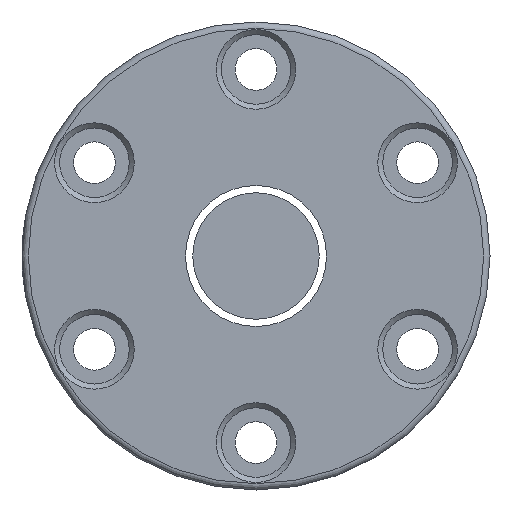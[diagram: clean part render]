
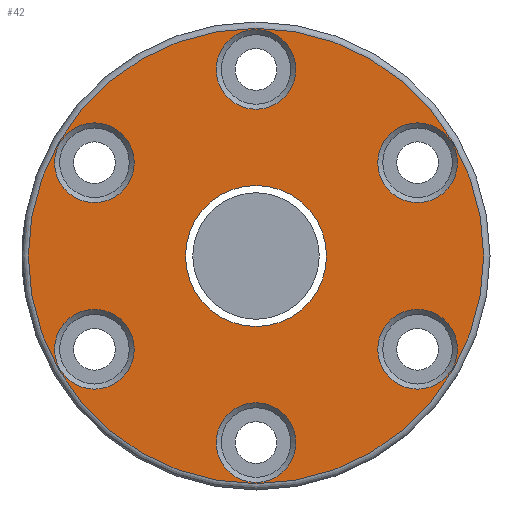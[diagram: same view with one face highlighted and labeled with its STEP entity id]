
A CAD part, left-side view. The second image highlights one B-rep face of the part: STEP entity #42.
In plain terms, the highlighted planar face has unit normal (-1, 0, 0).
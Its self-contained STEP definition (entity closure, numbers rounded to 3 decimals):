
#33 = ORIENTED_EDGE ( 'NONE', *, *, #1926, .T. ) ;
#42 = ADVANCED_FACE ( 'NONE', ( #2153, #1882, #570, #1466, #996, #1011, #118, #2797 ), #2361, .T. ) ;
#44 = DIRECTION ( 'NONE',  ( 1., 0., 0. ) ) ;
#62 = CARTESIAN_POINT ( 'NONE',  ( -57., -25.548, -14.75 ) ) ;
#76 = DIRECTION ( 'NONE',  ( 1., 0., 0. ) ) ;
#77 = EDGE_CURVE ( 'NONE', #1984, #1984, #1243, .T. ) ;
#97 = AXIS2_PLACEMENT_3D ( 'NONE', #555, #314, #1893 ) ;
#112 = DIRECTION ( 'NONE',  ( -1., 0., 0. ) ) ;
#118 = FACE_BOUND ( 'NONE', #2216, .T. ) ;
#192 = CARTESIAN_POINT ( 'NONE',  ( -57., 0., 36. ) ) ;
#288 = DIRECTION ( 'NONE',  ( 0., 0., 1. ) ) ;
#314 = DIRECTION ( 'NONE',  ( -1., 0., 0. ) ) ;
#343 = DIRECTION ( 'NONE',  ( 1., 0., 0. ) ) ;
#387 = ORIENTED_EDGE ( 'NONE', *, *, #742, .T. ) ;
#451 = AXIS2_PLACEMENT_3D ( 'NONE', #2359, #2825, #2633 ) ;
#555 = CARTESIAN_POINT ( 'NONE',  ( -57., 37., 0. ) ) ;
#570 = FACE_BOUND ( 'NONE', #1051, .T. ) ;
#588 = DIRECTION ( 'NONE',  ( 0., 0., -1. ) ) ;
#594 = DIRECTION ( 'NONE',  ( 0., 0., 1. ) ) ;
#623 = EDGE_CURVE ( 'NONE', #1475, #1475, #2053, .T. ) ;
#742 = EDGE_CURVE ( 'NONE', #1809, #1809, #1103, .T. ) ;
#777 = AXIS2_PLACEMENT_3D ( 'NONE', #1784, #871, #915 ) ;
#787 = CARTESIAN_POINT ( 'NONE',  ( -57., 0., -11.15 ) ) ;
#843 = ORIENTED_EDGE ( 'NONE', *, *, #1444, .T. ) ;
#871 = DIRECTION ( 'NONE',  ( 1., 0., 0. ) ) ;
#877 = AXIS2_PLACEMENT_3D ( 'NONE', #1288, #2190, #594 ) ;
#884 = DIRECTION ( 'NONE',  ( 1., 0., 0. ) ) ;
#915 = DIRECTION ( 'NONE',  ( 0., 0., 1. ) ) ;
#971 = AXIS2_PLACEMENT_3D ( 'NONE', #62, #76, #989 ) ;
#980 = EDGE_LOOP ( 'NONE', ( #843 ) ) ;
#989 = DIRECTION ( 'NONE',  ( 0., 0., 1. ) ) ;
#996 = FACE_BOUND ( 'NONE', #980, .T. ) ;
#1011 = FACE_BOUND ( 'NONE', #2744, .T. ) ;
#1051 = EDGE_LOOP ( 'NONE', ( #2145 ) ) ;
#1053 = AXIS2_PLACEMENT_3D ( 'NONE', #1196, #44, #288 ) ;
#1103 = CIRCLE ( 'NONE', #877, 6.3 ) ;
#1118 = ORIENTED_EDGE ( 'NONE', *, *, #2409, .T. ) ;
#1196 = CARTESIAN_POINT ( 'NONE',  ( -57., 0., 29.5 ) ) ;
#1199 = CIRCLE ( 'NONE', #1625, 36. ) ;
#1243 = CIRCLE ( 'NONE', #2910, 11.15 ) ;
#1246 = CARTESIAN_POINT ( 'NONE',  ( -57., 0., 0. ) ) ;
#1288 = CARTESIAN_POINT ( 'NONE',  ( -57., 0., -29.5 ) ) ;
#1377 = VERTEX_POINT ( 'NONE', #1553 ) ;
#1388 = EDGE_CURVE ( 'NONE', #1586, #1586, #1199, .T. ) ;
#1389 = AXIS2_PLACEMENT_3D ( 'NONE', #2035, #884, #2435 ) ;
#1394 = CIRCLE ( 'NONE', #451, 6.3 ) ;
#1407 = EDGE_LOOP ( 'NONE', ( #1837 ) ) ;
#1444 = EDGE_CURVE ( 'NONE', #1377, #1377, #2144, .T. ) ;
#1446 = EDGE_LOOP ( 'NONE', ( #33 ) ) ;
#1466 = FACE_BOUND ( 'NONE', #1588, .T. ) ;
#1475 = VERTEX_POINT ( 'NONE', #1718 ) ;
#1492 = ORIENTED_EDGE ( 'NONE', *, *, #623, .T. ) ;
#1553 = CARTESIAN_POINT ( 'NONE',  ( -57., 25.548, 21.05 ) ) ;
#1586 = VERTEX_POINT ( 'NONE', #192 ) ;
#1588 = EDGE_LOOP ( 'NONE', ( #1492 ) ) ;
#1625 = AXIS2_PLACEMENT_3D ( 'NONE', #1246, #112, #1921 ) ;
#1718 = CARTESIAN_POINT ( 'NONE',  ( -57., 0., 35.8 ) ) ;
#1781 = VERTEX_POINT ( 'NONE', #2243 ) ;
#1784 = CARTESIAN_POINT ( 'NONE',  ( -57., 25.548, -14.75 ) ) ;
#1796 = VERTEX_POINT ( 'NONE', #2897 ) ;
#1809 = VERTEX_POINT ( 'NONE', #2260 ) ;
#1837 = ORIENTED_EDGE ( 'NONE', *, *, #77, .T. ) ;
#1882 = FACE_BOUND ( 'NONE', #1446, .T. ) ;
#1893 = DIRECTION ( 'NONE',  ( 0., 0., 1. ) ) ;
#1921 = DIRECTION ( 'NONE',  ( 0., 0., 1. ) ) ;
#1925 = ORIENTED_EDGE ( 'NONE', *, *, #1388, .T. ) ;
#1926 = EDGE_CURVE ( 'NONE', #1796, #1796, #2251, .T. ) ;
#1984 = VERTEX_POINT ( 'NONE', #787 ) ;
#2035 = CARTESIAN_POINT ( 'NONE',  ( -57., 25.548, 14.75 ) ) ;
#2053 = CIRCLE ( 'NONE', #1053, 6.3 ) ;
#2080 = EDGE_CURVE ( 'NONE', #1781, #1781, #1394, .T. ) ;
#2144 = CIRCLE ( 'NONE', #1389, 6.3 ) ;
#2145 = ORIENTED_EDGE ( 'NONE', *, *, #2080, .T. ) ;
#2153 = FACE_OUTER_BOUND ( 'NONE', #2634, .T. ) ;
#2169 = CARTESIAN_POINT ( 'NONE',  ( -57., 0., 0. ) ) ;
#2190 = DIRECTION ( 'NONE',  ( 1., 0., 0. ) ) ;
#2216 = EDGE_LOOP ( 'NONE', ( #387 ) ) ;
#2228 = CARTESIAN_POINT ( 'NONE',  ( -57., 25.548, -8.45 ) ) ;
#2243 = CARTESIAN_POINT ( 'NONE',  ( -57., -25.548, 21.05 ) ) ;
#2250 = CIRCLE ( 'NONE', #777, 6.3 ) ;
#2251 = CIRCLE ( 'NONE', #971, 6.3 ) ;
#2260 = CARTESIAN_POINT ( 'NONE',  ( -57., 0., -23.2 ) ) ;
#2359 = CARTESIAN_POINT ( 'NONE',  ( -57., -25.548, 14.75 ) ) ;
#2361 = PLANE ( 'NONE',  #97 ) ;
#2409 = EDGE_CURVE ( 'NONE', #2710, #2710, #2250, .T. ) ;
#2435 = DIRECTION ( 'NONE',  ( 0., 0., 1. ) ) ;
#2633 = DIRECTION ( 'NONE',  ( 0., 0., 1. ) ) ;
#2634 = EDGE_LOOP ( 'NONE', ( #1925 ) ) ;
#2710 = VERTEX_POINT ( 'NONE', #2228 ) ;
#2744 = EDGE_LOOP ( 'NONE', ( #1118 ) ) ;
#2797 = FACE_BOUND ( 'NONE', #1407, .T. ) ;
#2825 = DIRECTION ( 'NONE',  ( 1., 0., 0. ) ) ;
#2897 = CARTESIAN_POINT ( 'NONE',  ( -57., -25.548, -8.45 ) ) ;
#2910 = AXIS2_PLACEMENT_3D ( 'NONE', #2169, #343, #588 ) ;
